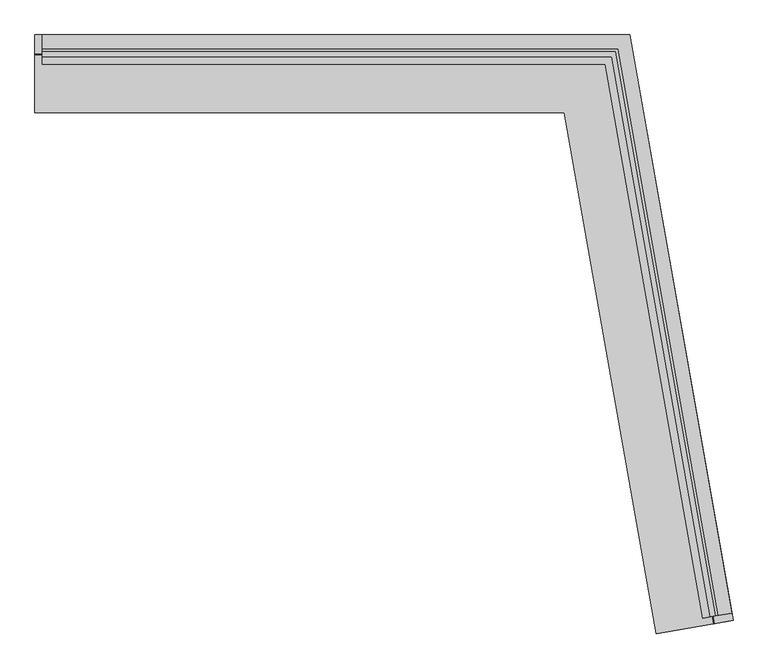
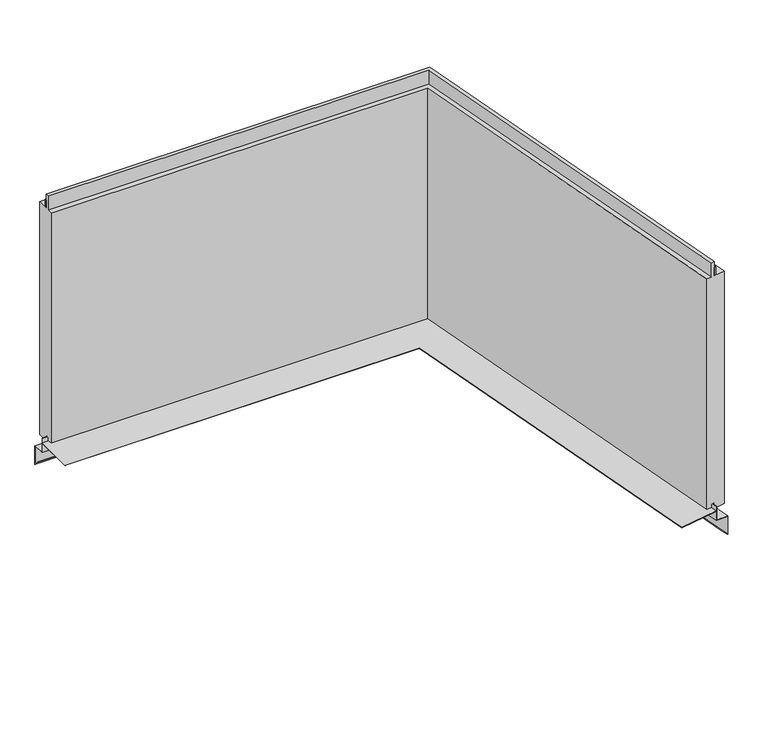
"""IFC4 building model written with IfcOpenShell, lengths in millimetres: plate geometry, Trimo_Qbiss Screen_L Corner Panel-HORIZONTAL : HR - B."""

from ifc_helpers import new_model, si_unit, frame, origin, place, context, project, spatial, polyline, outline, extrude, faceted_brep, source, transform, mapped, element, save


def plate_0497feba(model_context):
    return source(origin(), model_context, "Body", "SolidModel", [
        faceted_brep([(-464.2950184, 66.7, 14.0835797), (520.2629638, 66.7, 14.0835797), (691.2296633, -902.9003342, 14.0835797), (692.0175095, -902.7614157, 14.0835797), (520.9342435, 67.5, 14.0835797), (-464.2950184, 67.5, 14.0835797), (520.9342435, 67.5, -23.0), (-464.2950184, 67.5, -23.0), (548.2049816, 100.0, -25.8433816), (-464.2950184, 100.0, -25.8433816), (548.2049816, 100.0, -76.0), (-464.2950184, 100.0, -76.0), (537.4233512, 87.1509533, -63.1509533), (-464.2950184, 87.1509533, -63.1509533), (537.8980177, 87.7166388, -62.5852679), (-464.2950184, 87.7166388, -62.5852679), (547.5337019, 99.2, -74.0686292), (-464.2950184, 99.2, -74.0686292), (547.5337019, 99.2, -26.5764465), (-464.2950184, 99.2, -26.5764465), (520.2629638, 66.7, -23.7330649), (-464.2950184, 66.7, -23.7330649), (520.2629638, 66.7, 1.0), (-464.2950184, 66.7, 1.0), (691.2296633, -902.9003342, 1.0), (593.5367342, -920.1262335, 1.0), (437.0242804, -32.5, 1.0), (-464.2950184, -32.5, 1.0), (-464.2950184, -32.5, 1.8), (437.0242804, -32.5, 1.8), (593.5367342, -920.1262335, 1.8), (691.2296633, -902.9003342, 1.8), (520.2629638, 66.7, 1.8), (-464.2950184, 66.7, 1.8), (692.0175095, -902.7614157, -23.0), (724.0237614, -897.1178499, -25.8433816), (724.0237614, -897.1178499, -76.0), (711.3699207, -899.3490635, -63.1509533), (711.9270121, -899.2508332, -62.5852679), (723.2359152, -897.2567685, -74.0686292), (723.2359152, -897.2567685, -26.5764465), (691.2296633, -902.9003342, -23.7330649)], [[[0, 1, 2, 3, 4, 5]], [[4, 6, 7, 5]], [[6, 8, 9, 7]], [[8, 10, 11, 9]], [[10, 12, 13, 11]], [[12, 14, 15, 13]], [[14, 16, 17, 15]], [[16, 18, 19, 17]], [[18, 20, 21, 19]], [[20, 22, 23, 21]], [[23, 22, 24, 25, 26, 27]], [[28, 29, 30, 31, 32, 33]], [[32, 1, 0, 33]], [[6, 4, 3, 34]], [[8, 6, 34, 35]], [[10, 8, 35, 36]], [[12, 10, 36, 37]], [[14, 12, 37, 38]], [[16, 14, 38, 39]], [[18, 16, 39, 40]], [[20, 18, 40, 41]], [[22, 20, 41, 24]], [[1, 32, 31, 2]], [[0, 5, 7, 9, 11, 13, 15, 17, 19, 21, 23, 27, 28, 33]], [[3, 2, 31, 30, 25, 24, 41, 40, 39, 38, 37, 36, 35, 34]], [[26, 29, 28, 27]], [[29, 26, 25, 30]]]),
        extrude(outline(polyline([(-451.7950184, 71.0), (-451.7950184, 76.0), (528.0665904, 76.0), (698.2177732, -888.9753093), (693.2937344, -889.8435502), (523.8710923, 71.0), (-451.7950184, 71.0)])), frame((0.0, 0.0, 628.0), z_axis=(0.0, 0.0, 1.0), x_axis=(1.0, 0.0, 0.0)), (0.0, 0.0, 1.0), 21.0),
        faceted_brep([(-451.7950184, 71.0, 627.0), (-451.7950184, 100.0, 627.0), (-451.7950184, 100.0, 0.0), (-451.7950184, 72.0, 0.0), (-451.7950184, 72.0, 15.5), (-451.7950184, 62.0, 15.5), (-451.7950184, 62.0, 7.0), (-451.7950184, 50.0, 7.0), (-451.7950184, 50.0, 627.0), (-451.7950184, 63.0, 627.0), (-451.7950184, 63.0, 664.5), (-451.7950184, 71.0, 664.5), (523.8710923, 71.0, 627.0), (693.2937344, -889.8435502, 627.0), (721.8531592, -884.807753, 627.0), (548.2049816, 100.0, 627.0), (548.2049816, 100.0, 0.0), (721.8531592, -884.807753, 0.0), (694.2785421, -889.669902, 0.0), (524.7101919, 72.0, 0.0), (524.7101919, 72.0, 15.5), (694.2785421, -889.669902, 15.5), (684.4304646, -891.4063838, 15.5), (516.3191956, 62.0, 15.5), (516.3191956, 62.0, 7.0), (684.4304646, -891.4063838, 7.0), (672.6127716, -893.4901619, 7.0), (506.25, 50.0, 7.0), (506.25, 50.0, 627.0), (672.6127716, -893.4901619, 627.0), (685.4152724, -891.2327356, 627.0), (517.1582952, 63.0, 627.0), (517.1582952, 63.0, 664.5), (685.4152724, -891.2327356, 664.5), (693.2937344, -889.8435502, 664.5), (523.8710923, 71.0, 664.5)], [[[0, 1, 2, 3, 4, 5, 6, 7, 8, 9, 10, 11]], [[1, 0, 12, 13, 14, 15]], [[2, 1, 15, 16]], [[3, 2, 16, 17, 18, 19]], [[4, 3, 19, 20]], [[5, 4, 20, 21, 22, 23]], [[6, 5, 23, 24]], [[7, 6, 24, 25, 26, 27]], [[8, 7, 27, 28]], [[9, 8, 28, 29, 30, 31]], [[10, 9, 31, 32]], [[11, 10, 32, 33, 34, 35]], [[0, 11, 35, 12]], [[13, 34, 33, 30, 29, 26, 25, 22, 21, 18, 17, 14]], [[16, 15, 14, 17]], [[20, 19, 18, 21]], [[24, 23, 22, 25]], [[28, 27, 26, 29]], [[32, 31, 30, 33]], [[12, 35, 34, 13]]]),
    ])


if __name__ == "__main__":
    model = new_model("IFC4")
    model_context = context("Model", 3, world=origin())
    ifc_project = project(units=[si_unit("LENGTHUNIT", "METRE", prefix="MILLI")], contexts=[model_context])
    site = spatial("IfcSite", under=ifc_project)
    building = spatial("IfcBuilding", under=site)
    placement = place(None, origin())
    plate_shape = plate_0497feba(model_context)
    element("IfcPlate", 1, ObjectType="Trimo_Qbiss Screen_L Corner Panel-HORIZONTAL : HR - B", at=placement, inside=building, context=model_context, shape_type="MappedRepresentation", body=[
        mapped(plate_shape, transform((0.0, 0.0, 0.0), x_axis=(1.0, 0.0, 0.0), y_axis=(0.0, 1.0, 0.0), z_axis=(0.0, 0.0, 1.0))),
    ])
    save(model, "model.ifc")
